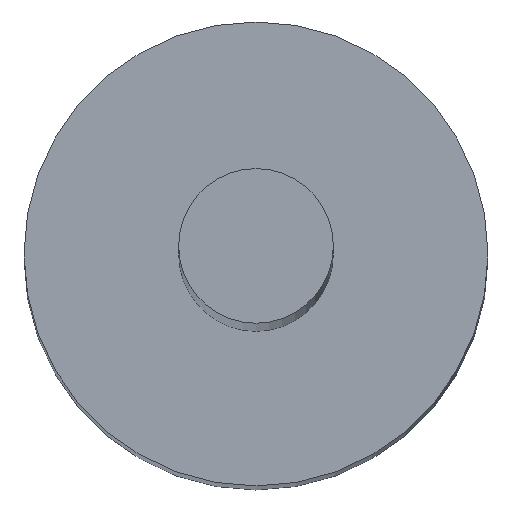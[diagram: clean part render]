
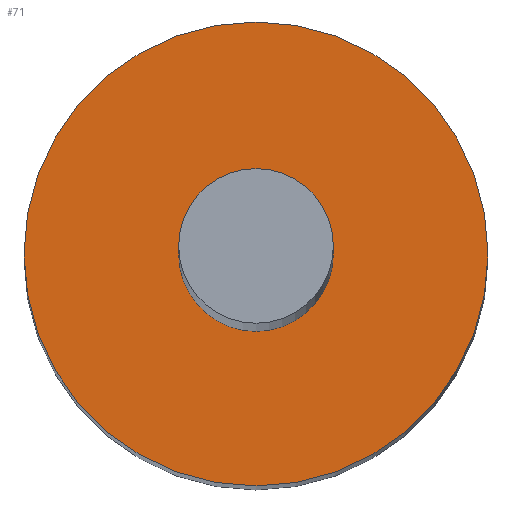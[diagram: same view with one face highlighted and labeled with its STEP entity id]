
A CAD part, top view. The second image highlights one B-rep face of the part: STEP entity #71.
In plain terms, the highlighted planar face has unit normal (0, 0, 1).
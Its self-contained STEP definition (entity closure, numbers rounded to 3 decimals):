
#2 = EDGE_LOOP ( 'NONE', ( #178, #382 ) ) ;
#3 = DIRECTION ( 'NONE',  ( 0., 0., 1. ) ) ;
#4 = CIRCLE ( 'NONE', #375, 0.5 ) ;
#8 = FACE_BOUND ( 'NONE', #2, .T. ) ;
#32 = CARTESIAN_POINT ( 'NONE',  ( 0., 0., 15. ) ) ;
#35 = CIRCLE ( 'NONE', #62, 1.5 ) ;
#40 = ORIENTED_EDGE ( 'NONE', *, *, #399, .T. ) ;
#42 = AXIS2_PLACEMENT_3D ( 'NONE', #286, #323, #367 ) ;
#43 = CIRCLE ( 'NONE', #358, 1.5 ) ;
#62 = AXIS2_PLACEMENT_3D ( 'NONE', #293, #362, #319 ) ;
#64 = DIRECTION ( 'NONE',  ( 1., 0., 0. ) ) ;
#71 = ADVANCED_FACE ( 'NONE', ( #8, #131 ), #314, .T. ) ;
#88 = DIRECTION ( 'NONE',  ( 0., 0., 1. ) ) ;
#104 = VERTEX_POINT ( 'NONE', #251 ) ;
#131 = FACE_OUTER_BOUND ( 'NONE', #331, .T. ) ;
#161 = ORIENTED_EDGE ( 'NONE', *, *, #212, .T. ) ;
#178 = ORIENTED_EDGE ( 'NONE', *, *, #469, .F. ) ;
#183 = VERTEX_POINT ( 'NONE', #259 ) ;
#187 = VERTEX_POINT ( 'NONE', #342 ) ;
#196 = CARTESIAN_POINT ( 'NONE',  ( 0., 0., 15. ) ) ;
#202 = AXIS2_PLACEMENT_3D ( 'NONE', #283, #88, #239 ) ;
#212 = EDGE_CURVE ( 'NONE', #285, #187, #35, .T. ) ;
#239 = DIRECTION ( 'NONE',  ( 1., 0., 0. ) ) ;
#251 = CARTESIAN_POINT ( 'NONE',  ( -0.5, 0., 15. ) ) ;
#259 = CARTESIAN_POINT ( 'NONE',  ( 0.5, 0., 15. ) ) ;
#283 = CARTESIAN_POINT ( 'NONE',  ( 0., 0., 15. ) ) ;
#285 = VERTEX_POINT ( 'NONE', #420 ) ;
#286 = CARTESIAN_POINT ( 'NONE',  ( 0., 0., 15. ) ) ;
#293 = CARTESIAN_POINT ( 'NONE',  ( 0., 0., 15. ) ) ;
#305 = DIRECTION ( 'NONE',  ( 1., 0., 0. ) ) ;
#314 = PLANE ( 'NONE',  #202 ) ;
#319 = DIRECTION ( 'NONE',  ( 1., 0., 0. ) ) ;
#321 = EDGE_CURVE ( 'NONE', #183, #104, #479, .T. ) ;
#323 = DIRECTION ( 'NONE',  ( 0., 0., 1. ) ) ;
#331 = EDGE_LOOP ( 'NONE', ( #40, #161 ) ) ;
#342 = CARTESIAN_POINT ( 'NONE',  ( -1.5, 0., 15. ) ) ;
#358 = AXIS2_PLACEMENT_3D ( 'NONE', #196, #3, #64 ) ;
#362 = DIRECTION ( 'NONE',  ( 0., 0., 1. ) ) ;
#367 = DIRECTION ( 'NONE',  ( 1., 0., 0. ) ) ;
#375 = AXIS2_PLACEMENT_3D ( 'NONE', #32, #418, #305 ) ;
#382 = ORIENTED_EDGE ( 'NONE', *, *, #321, .F. ) ;
#399 = EDGE_CURVE ( 'NONE', #187, #285, #43, .T. ) ;
#418 = DIRECTION ( 'NONE',  ( 0., 0., 1. ) ) ;
#420 = CARTESIAN_POINT ( 'NONE',  ( 1.5, 0., 15. ) ) ;
#469 = EDGE_CURVE ( 'NONE', #104, #183, #4, .T. ) ;
#479 = CIRCLE ( 'NONE', #42, 0.5 ) ;
